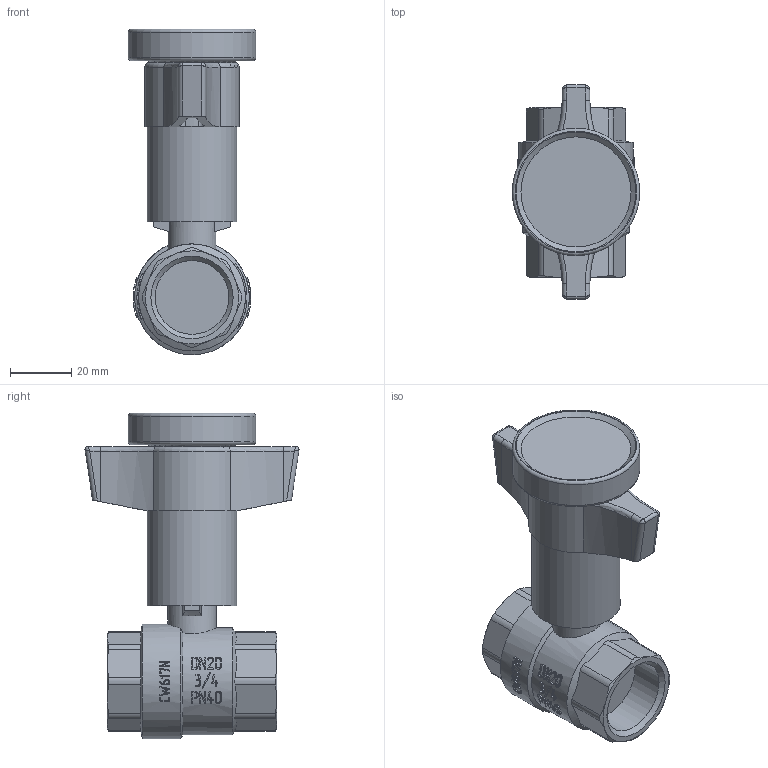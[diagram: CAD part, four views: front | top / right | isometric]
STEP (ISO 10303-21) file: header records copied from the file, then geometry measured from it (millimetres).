
FILE_DESCRIPTION(('STEP AP203'), '1');
FILE_NAME('VT.808.N.05', '', ('UNSPECIFIED'), ('UNSPECIFIED'), 'C3D Converter', 'C3D Toolkit', '');
FILE_SCHEMA(('CONFIG_CONTROL_DESIGN'));
Length unit declared in the file: millimetre
Products named in the file (1): ВР.491812.024.000 СБ
Bounding box: 41.7 x 70 x 106.45 mm (x, y, z)
Volume: 80584.5 mm3; surface area: 31651.8 mm2
Topology: 1 solids, 3 shells, 908 faces, 2511 edges, 1651 vertices
Faces by surface type: extrusion 366, plane 345, cylinder 131, cone 39, torus 15, bspline 12
Full cylindrical faces by diameter (mm): 8 x2, 8.4 x1, 10 x1, 10.5 x1, 12 x2, 16 x1, 18 x1, 23 x1, 24.118 x2, 29.2 x1, 35 x1, 37.5 x1, 41.7 x1
Entity records: 43497 total; most frequent: CARTESIAN_POINT 22652, ORIENTED_EDGE 4918, DIRECTION 3116, EDGE_CURVE 2459, VERTEX_POINT 1646, VECTOR 1352, B_SPLINE_CURVE_WITH_KNOTS 1288, EDGE_LOOP 997
